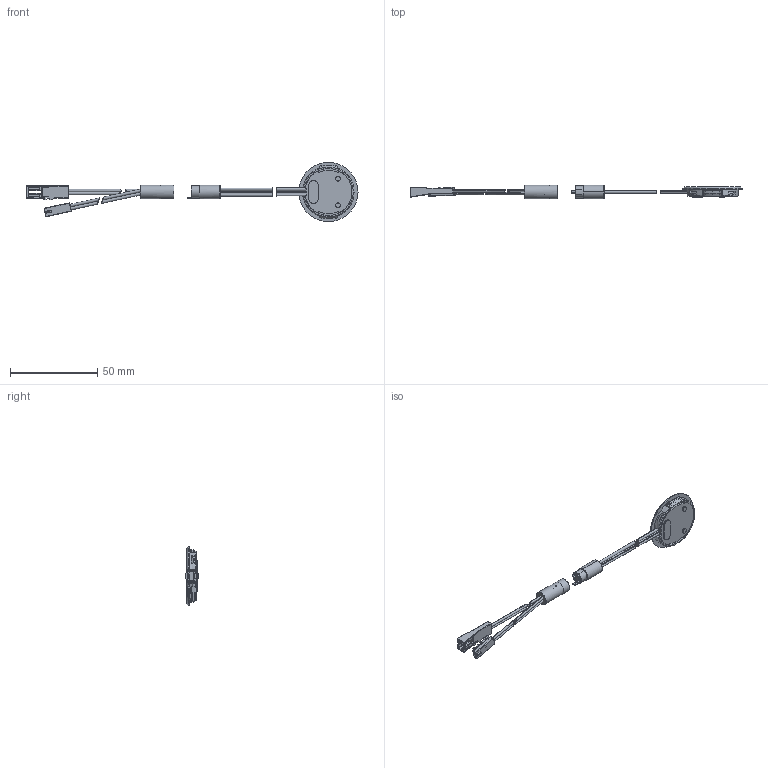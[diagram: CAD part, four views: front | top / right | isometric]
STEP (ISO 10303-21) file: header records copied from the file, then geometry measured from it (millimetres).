
FILE_DESCRIPTION (( 'STEP AP203' ), '1' );
FILE_NAME ('Touch_Sensordimmer_12VDC_24.STEP', '2024-12-03T06:35:14', ( '' ), ( '' ), 'SwSTEP 2.0', 'SolidWorks 2023', '' );
FILE_SCHEMA (( 'CONFIG_CONTROL_DESIGN' ));
Length unit declared in the file: millimetre
Products named in the file (8): Touch_Sensordimmer_12VDC_24; 1963902_Pr02601_Glaswinkelboarddisc_II; LED_Buchse_DAM_LTG_50mm_geb.; 2550001_Pr2601_UT_Touch_Sensor; 2550101_Pr2601_OT_Touch_Sensor; 1916503_Pr1251_Mini_Stecker_LED_sw_DAM3_L=50mm_getr.; 4728802_Pr2601_PCB_MultiSwitch_Touch_Sensor; LED_Kabel_3Adrig_FO_DAM
Assembly tree (7 placements, depth 2):
  Touch_Sensordimmer_12VDC_24
    2550101_Pr2601_OT_Touch_Sensor
    1963902_Pr02601_Glaswinkelboarddisc_II
    2550001_Pr2601_UT_Touch_Sensor
    4728802_Pr2601_PCB_MultiSwitch_Touch_Sensor
    LED_Kabel_3Adrig_FO_DAM
    1916503_Pr1251_Mini_Stecker_LED_sw_DAM3_L=50mm_getr.
    LED_Buchse_DAM_LTG_50mm_geb.
Bounding box: 190.5 x 7.8 x 34 mm (x, y, z)
Volume: 5494.2 mm3; surface area: 10785.2 mm2
Topology: 17 solids, 17 shells, 803 faces, 1905 edges, 1125 vertices
Faces by surface type: cylinder 334, plane 302, torus 59, sphere 49, cone 34, bspline 25
Entity records: 23934 total; most frequent: CARTESIAN_POINT 4751, DIRECTION 4079, ORIENTED_EDGE 3690, EDGE_CURVE 1845, AXIS2_PLACEMENT_3D 1579, VERTEX_POINT 1123, VECTOR 921, LINE 921
